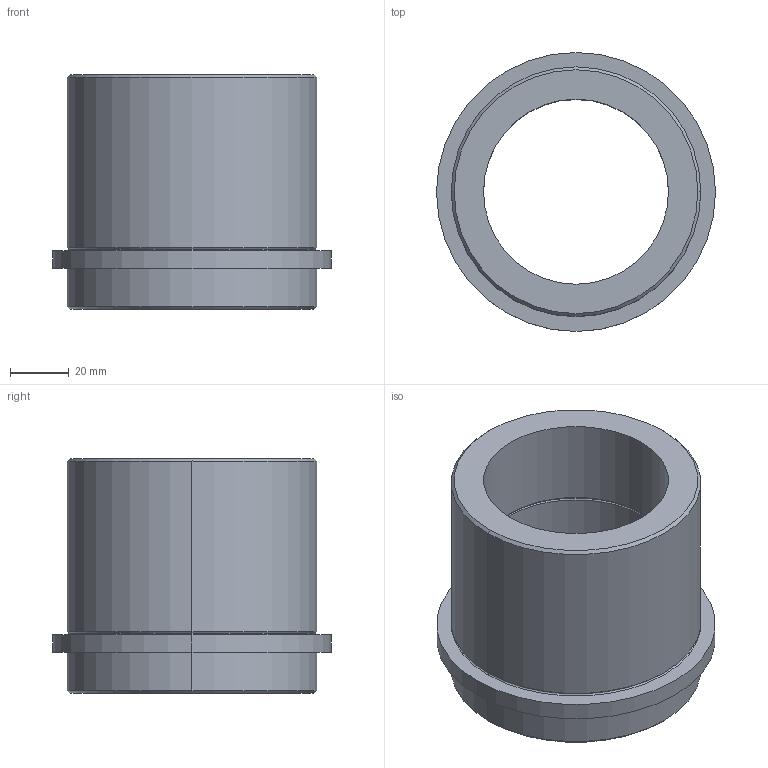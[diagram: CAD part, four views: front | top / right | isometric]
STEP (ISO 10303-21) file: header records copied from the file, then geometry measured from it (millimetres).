
FILE_DESCRIPTION (( 'STEP AP214' ), '1' );
FILE_NAME ('Casquillo SB500-63-80.STEP', '2018-11-27T07:40:53', ( '' ), ( '' ), 'SwSTEP 2.0', 'SolidWorks 2018', '' );
FILE_SCHEMA (( 'AUTOMOTIVE_DESIGN' ));
Length unit declared in the file: millimetre
Products named in the file (1): Casquillo SB500-63-80
Bounding box: 95 x 95 x 80 mm (x, y, z)
Volume: 212650.9 mm3; surface area: 45390.3 mm2
Topology: 1 solids, 1 shells, 32 faces, 64 edges, 36 vertices
Faces by surface type: torus 12, cylinder 12, cone 4, plane 4
Entity records: 874 total; most frequent: DIRECTION 178, CARTESIAN_POINT 133, ORIENTED_EDGE 128, AXIS2_PLACEMENT_3D 81, EDGE_CURVE 64, CIRCLE 48, EDGE_LOOP 36, VERTEX_POINT 36
